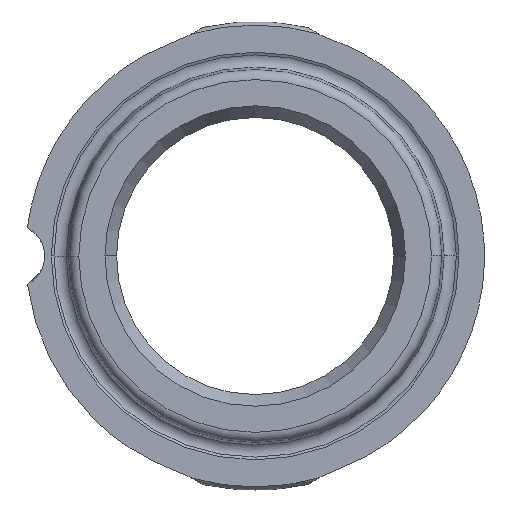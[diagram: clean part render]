
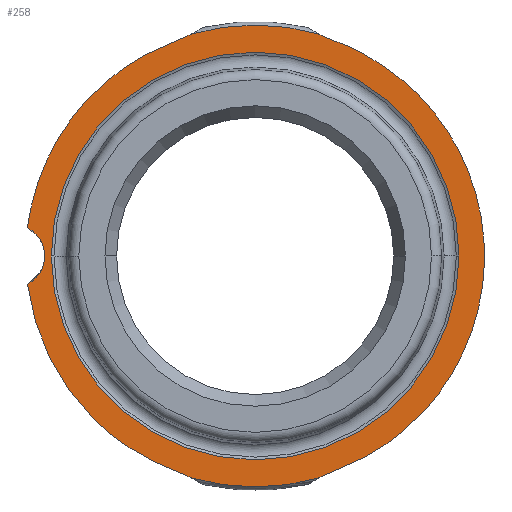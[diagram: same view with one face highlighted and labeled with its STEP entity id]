
A CAD part, front view. The second image highlights one B-rep face of the part: STEP entity #258.
In plain terms, the highlighted planar face has unit normal (0, -1, 0).
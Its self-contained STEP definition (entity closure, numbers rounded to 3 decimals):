
#7 = ORIENTED_EDGE ( 'NONE', *, *, #1357, .T. ) ;
#10 = EDGE_CURVE ( 'NONE', #386, #485, #893, .T. ) ;
#27 = DIRECTION ( 'NONE',  ( 1., 0., 0. ) ) ;
#82 = B_SPLINE_CURVE_WITH_KNOTS ( 'NONE', 3,
 ( #1399, #1258, #1132, #998, #855, #703 ),
 .UNSPECIFIED., .F., .F.,
 ( 4, 1, 1, 4 ),
 ( 0.012, 0.017, 0.019, 0.022 ),
 .UNSPECIFIED. ) ;
#122 = FACE_OUTER_BOUND ( 'NONE', #1375, .T. ) ;
#124 = FACE_BOUND ( 'NONE', #587, .T. ) ;
#126 = PLANE ( 'NONE',  #149 ) ;
#146 = CARTESIAN_POINT ( 'NONE',  ( 2.565, 5., -8.798 ) ) ;
#149 = AXIS2_PLACEMENT_3D ( 'NONE', #1419, #1280, #1147 ) ;
#187 = CARTESIAN_POINT ( 'NONE',  ( 3.041, 5., 8.582 ) ) ;
#197 = CARTESIAN_POINT ( 'NONE',  ( 3.041, 5., -8.582 ) ) ;
#204 = ORIENTED_EDGE ( 'NONE', *, *, #1078, .T. ) ;
#206 = CIRCLE ( 'NONE', #1392, 9.165 ) ;
#210 = VERTEX_POINT ( 'NONE', #1316 ) ;
#220 = DIRECTION ( 'NONE',  ( 0., 1., 0. ) ) ;
#255 = CARTESIAN_POINT ( 'NONE',  ( -8.09, 5., 0. ) ) ;
#258 = ADVANCED_FACE ( 'NONE', ( #124, #122 ), #126, .T. ) ;
#269 = ORIENTED_EDGE ( 'NONE', *, *, #965, .F. ) ;
#284 = VERTEX_POINT ( 'NONE', #255 ) ;
#301 = ORIENTED_EDGE ( 'NONE', *, *, #1185, .T. ) ;
#310 = CARTESIAN_POINT ( 'NONE',  ( -9.035, 5., -1.115 ) ) ;
#320 = CARTESIAN_POINT ( 'NONE',  ( -2.565, 5., -8.798 ) ) ;
#332 = CIRCLE ( 'NONE', #844, 9.165 ) ;
#336 = AXIS2_PLACEMENT_3D ( 'NONE', #991, #849, #699 ) ;
#340 = ORIENTED_EDGE ( 'NONE', *, *, #842, .T. ) ;
#346 = VERTEX_POINT ( 'NONE', #1186 ) ;
#354 = VERTEX_POINT ( 'NONE', #929 ) ;
#380 = CARTESIAN_POINT ( 'NONE',  ( 4.06, 5., 11.46 ) ) ;
#383 = VERTEX_POINT ( 'NONE', #310 ) ;
#386 = VERTEX_POINT ( 'NONE', #1030 ) ;
#387 = DIRECTION ( 'NONE',  ( 1., 0., 0. ) ) ;
#412 = EDGE_CURVE ( 'NONE', #284, #210, #1201, .T. ) ;
#460 = CIRCLE ( 'NONE', #1402, 3.053 ) ;
#479 = AXIS2_PLACEMENT_3D ( 'NONE', #836, #686, #539 ) ;
#485 = VERTEX_POINT ( 'NONE', #320 ) ;
#488 = CARTESIAN_POINT ( 'NONE',  ( 3.041, 5., 8.582 ) ) ;
#492 = VERTEX_POINT ( 'NONE', #146 ) ;
#503 = AXIS2_PLACEMENT_3D ( 'NONE', #1393, #1253, #1127 ) ;
#539 = DIRECTION ( 'NONE',  ( 1., 0., 0. ) ) ;
#545 = DIRECTION ( 'NONE',  ( 0., 1., 0. ) ) ;
#547 = CARTESIAN_POINT ( 'NONE',  ( -4.06, 5., 11.46 ) ) ;
#548 = DIRECTION ( 'NONE',  ( 1., 0., 0. ) ) ;
#553 = VERTEX_POINT ( 'NONE', #1168 ) ;
#569 = CIRCLE ( 'NONE', #811, 3.053 ) ;
#586 = CARTESIAN_POINT ( 'NONE',  ( -9.035, 5., 1.115 ) ) ;
#587 = EDGE_LOOP ( 'NONE', ( #720, #853 ) ) ;
#630 = CARTESIAN_POINT ( 'NONE',  ( 3.91, 5., 8.274 ) ) ;
#641 = CARTESIAN_POINT ( 'NONE',  ( -2.565, 5., 8.798 ) ) ;
#652 = VERTEX_POINT ( 'NONE', #641 ) ;
#659 = DIRECTION ( 'NONE',  ( 1., 0., 0. ) ) ;
#686 = DIRECTION ( 'NONE',  ( 0., 1., 0. ) ) ;
#697 = DIRECTION ( 'NONE',  ( 0., 1., 0. ) ) ;
#699 = DIRECTION ( 'NONE',  ( 1., 0., 0. ) ) ;
#703 = CARTESIAN_POINT ( 'NONE',  ( -3.041, 5., -8.582 ) ) ;
#720 = ORIENTED_EDGE ( 'NONE', *, *, #762, .F. ) ;
#725 = CARTESIAN_POINT ( 'NONE',  ( -8.849, 5., 2.598 ) ) ;
#736 = ORIENTED_EDGE ( 'NONE', *, *, #754, .T. ) ;
#754 = EDGE_CURVE ( 'NONE', #346, #354, #1107, .T. ) ;
#762 = EDGE_CURVE ( 'NONE', #210, #284, #907, .T. ) ;
#765 = EDGE_CURVE ( 'NONE', #492, #485, #332, .T. ) ;
#777 = CARTESIAN_POINT ( 'NONE',  ( 5.582, 5., 7.365 ) ) ;
#809 = DIRECTION ( 'NONE',  ( 0., 1., 0. ) ) ;
#811 = AXIS2_PLACEMENT_3D ( 'NONE', #380, #220, #27 ) ;
#836 = CARTESIAN_POINT ( 'NONE',  ( 4.06, 5., -11.46 ) ) ;
#842 = EDGE_CURVE ( 'NONE', #354, #383, #1410, .T. ) ;
#843 = CARTESIAN_POINT ( 'NONE',  ( -4.06, 5., -11.46 ) ) ;
#844 = AXIS2_PLACEMENT_3D ( 'NONE', #990, #697, #548 ) ;
#849 = DIRECTION ( 'NONE',  ( 0., -1., 0. ) ) ;
#852 = VERTEX_POINT ( 'NONE', #187 ) ;
#853 = ORIENTED_EDGE ( 'NONE', *, *, #412, .F. ) ;
#855 = CARTESIAN_POINT ( 'NONE',  ( -3.91, 5., -8.274 ) ) ;
#858 = VERTEX_POINT ( 'NONE', #1456 ) ;
#880 = ORIENTED_EDGE ( 'NONE', *, *, #1286, .T. ) ;
#887 = CARTESIAN_POINT ( 'NONE',  ( -7.952, 5., 4.935 ) ) ;
#893 = CIRCLE ( 'NONE', #1257, 3.053 ) ;
#906 = DIRECTION ( 'NONE',  ( 1., 0., 0. ) ) ;
#907 = CIRCLE ( 'NONE', #503, 8.09 ) ;
#929 = CARTESIAN_POINT ( 'NONE',  ( -9.035, 5., 1.115 ) ) ;
#939 = CARTESIAN_POINT ( 'NONE',  ( 8.214, 5., 4.666 ) ) ;
#959 = CARTESIAN_POINT ( 'NONE',  ( -9.6, 5., 0. ) ) ;
#965 = EDGE_CURVE ( 'NONE', #652, #553, #206, .T. ) ;
#986 = AXIS2_PLACEMENT_3D ( 'NONE', #959, #809, #659 ) ;
#990 = CARTESIAN_POINT ( 'NONE',  ( 0., 5., 0. ) ) ;
#991 = CARTESIAN_POINT ( 'NONE',  ( 0., 5., 0. ) ) ;
#998 = CARTESIAN_POINT ( 'NONE',  ( -5.582, 5., -7.365 ) ) ;
#1014 = CIRCLE ( 'NONE', #479, 3.053 ) ;
#1029 = CARTESIAN_POINT ( 'NONE',  ( -5.582, 5., 7.365 ) ) ;
#1030 = CARTESIAN_POINT ( 'NONE',  ( -3.041, 5., -8.582 ) ) ;
#1040 = DIRECTION ( 'NONE',  ( 0., 1., 0. ) ) ;
#1067 = CARTESIAN_POINT ( 'NONE',  ( 9.699, 5., 0. ) ) ;
#1078 = EDGE_CURVE ( 'NONE', #492, #858, #1014, .T. ) ;
#1082 = EDGE_CURVE ( 'NONE', #852, #553, #569, .T. ) ;
#1107 = B_SPLINE_CURVE_WITH_KNOTS ( 'NONE', 3,
 ( #1285, #1154, #1029, #887, #725, #586 ),
 .UNSPECIFIED., .F., .F.,
 ( 4, 1, 1, 4 ),
 ( 0., 0.003, 0.006, 0.01 ),
 .UNSPECIFIED. ) ;
#1127 = DIRECTION ( 'NONE',  ( 1., 0., 0. ) ) ;
#1132 = CARTESIAN_POINT ( 'NONE',  ( -7.952, 5., -4.935 ) ) ;
#1147 = DIRECTION ( 'NONE',  ( 1., 0., 0. ) ) ;
#1154 = CARTESIAN_POINT ( 'NONE',  ( -3.91, 5., 8.274 ) ) ;
#1162 = ORIENTED_EDGE ( 'NONE', *, *, #10, .T. ) ;
#1165 = CARTESIAN_POINT ( 'NONE',  ( 0., 5., 0. ) ) ;
#1168 = CARTESIAN_POINT ( 'NONE',  ( 2.565, 5., 8.798 ) ) ;
#1185 = EDGE_CURVE ( 'NONE', #652, #346, #460, .T. ) ;
#1186 = CARTESIAN_POINT ( 'NONE',  ( -3.041, 5., 8.582 ) ) ;
#1201 = CIRCLE ( 'NONE', #336, 8.09 ) ;
#1202 = CARTESIAN_POINT ( 'NONE',  ( 8.214, 5., -4.666 ) ) ;
#1221 = B_SPLINE_CURVE_WITH_KNOTS ( 'NONE', 3,
 ( #197, #1462, #1338, #1202, #1067, #939, #777, #630, #488 ),
 .UNSPECIFIED., .F., .F.,
 ( 4, 1, 1, 1, 1, 1, 4 ),
 ( 0., 0.003, 0.006, 0.011, 0.017, 0.019, 0.022 ),
 .UNSPECIFIED. ) ;
#1225 = DIRECTION ( 'NONE',  ( 1., 0., 0. ) ) ;
#1242 = ORIENTED_EDGE ( 'NONE', *, *, #1082, .T. ) ;
#1246 = ORIENTED_EDGE ( 'NONE', *, *, #765, .F. ) ;
#1253 = DIRECTION ( 'NONE',  ( 0., -1., 0. ) ) ;
#1257 = AXIS2_PLACEMENT_3D ( 'NONE', #843, #545, #387 ) ;
#1258 = CARTESIAN_POINT ( 'NONE',  ( -8.849, 5., -2.598 ) ) ;
#1280 = DIRECTION ( 'NONE',  ( 0., -1., 0. ) ) ;
#1285 = CARTESIAN_POINT ( 'NONE',  ( -3.041, 5., 8.582 ) ) ;
#1286 = EDGE_CURVE ( 'NONE', #383, #386, #82, .T. ) ;
#1316 = CARTESIAN_POINT ( 'NONE',  ( 8.09, 5., 0. ) ) ;
#1338 = CARTESIAN_POINT ( 'NONE',  ( 5.582, 5., -7.365 ) ) ;
#1357 = EDGE_CURVE ( 'NONE', #858, #852, #1221, .T. ) ;
#1358 = DIRECTION ( 'NONE',  ( 0., 1., 0. ) ) ;
#1375 = EDGE_LOOP ( 'NONE', ( #736, #340, #880, #1162, #1246, #204, #7, #1242, #269, #301 ) ) ;
#1392 = AXIS2_PLACEMENT_3D ( 'NONE', #1165, #1040, #906 ) ;
#1393 = CARTESIAN_POINT ( 'NONE',  ( 0., 5., 0. ) ) ;
#1399 = CARTESIAN_POINT ( 'NONE',  ( -9.035, 5., -1.115 ) ) ;
#1402 = AXIS2_PLACEMENT_3D ( 'NONE', #547, #1358, #1225 ) ;
#1410 = CIRCLE ( 'NONE', #986, 1.25 ) ;
#1419 = CARTESIAN_POINT ( 'NONE',  ( 9.45, 5., 0. ) ) ;
#1456 = CARTESIAN_POINT ( 'NONE',  ( 3.041, 5., -8.582 ) ) ;
#1462 = CARTESIAN_POINT ( 'NONE',  ( 3.91, 5., -8.274 ) ) ;
